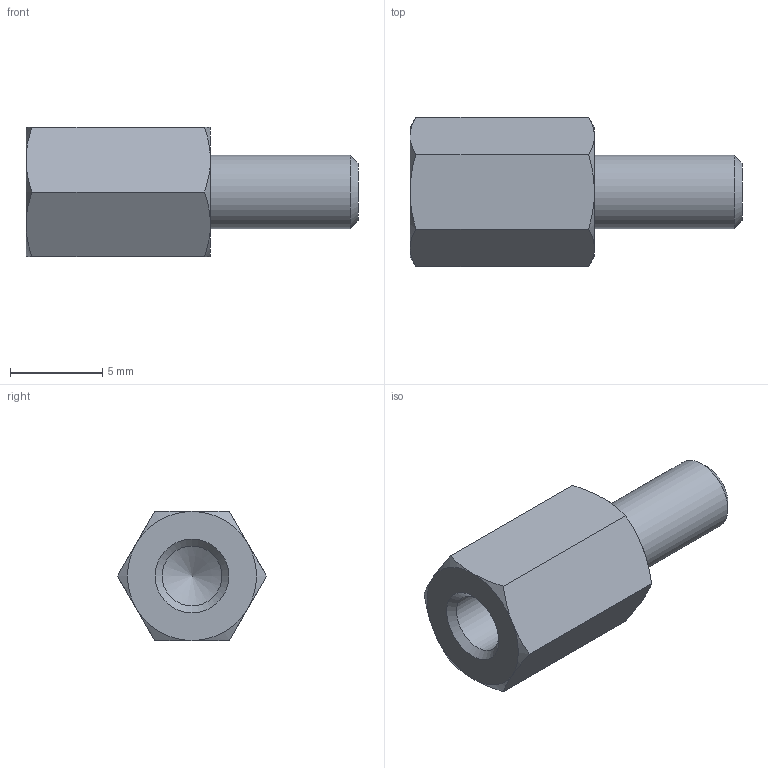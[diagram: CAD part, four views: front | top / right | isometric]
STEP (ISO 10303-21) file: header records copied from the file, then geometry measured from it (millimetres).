
FILE_DESCRIPTION( ( 'STEP AP203' ), '1' );
FILE_NAME( 'C:/Temp/Ganter_Step_05_03_2020/data/3_2/gn6220/gn6220_st/Spacer GN 6220-ST-M4-10-B.stp', '2020-03-13T05:42:39', ( 'License CC BY-ND 4.0' ), ( 'CADENAS' ), ' ', 'PARTsolutions', ' ' );
FILE_SCHEMA( ( 'CONFIG_CONTROL_DESIGN' ) );
Length unit declared in the file: millimetre
Products named in the file (1): _Spacer GN 6220-ST-M4-10-B
Bounding box: 18 x 8.08 x 7 mm (x, y, z)
Volume: 453.6 mm3; surface area: 501.3 mm2
Topology: 1 solids, 1 shells, 26 faces, 55 edges, 32 vertices
Faces by surface type: cone 15, plane 9, cylinder 2
Full cylindrical faces by diameter (mm): 3.242 x1, 4 x1
Entity records: 746 total; most frequent: CARTESIAN_POINT 210, DIRECTION 96, ORIENTED_EDGE 96, EDGE_CURVE 48, AXIS2_PLACEMENT_3D 45, EDGE_LOOP 32, VERTEX_POINT 31, FACE_OUTER_BOUND 28
